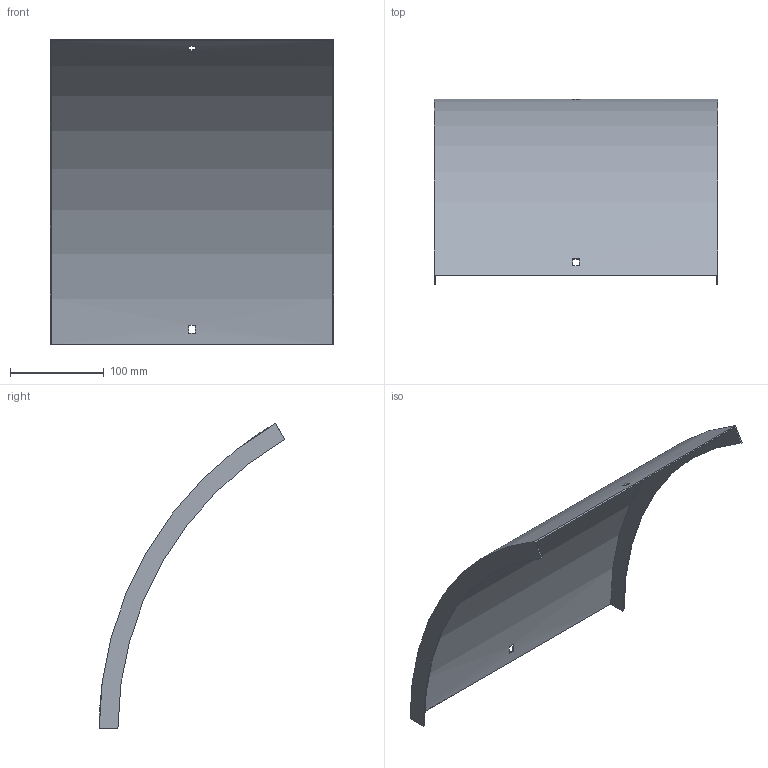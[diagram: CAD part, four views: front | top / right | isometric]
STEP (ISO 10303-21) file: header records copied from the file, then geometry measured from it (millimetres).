
FILE_DESCRIPTION (( 'STEP AP214' ), '1' );
FILE_NAME ('B2_41N3C300.step', '2025-02-21T10:41:06', ( '' ), ( '' ), 'SwSTEP 2.0', 'SolidWorks 2023', '' );
FILE_SCHEMA (( 'AUTOMOTIVE_DESIGN' ));
Length unit declared in the file: millimetre
Products named in the file (1): B2_41N3C300
Bounding box: 303 x 198.25 x 326.06 mm (x, y, z)
Volume: 199920.2 mm3; surface area: 268795.7 mm2
Topology: 1 solids, 1 shells, 18 faces, 48 edges, 32 vertices
Faces by surface type: plane 14, cylinder 4
Entity records: 599 total; most frequent: DIRECTION 102, CARTESIAN_POINT 99, ORIENTED_EDGE 96, EDGE_CURVE 48, AXIS2_PLACEMENT_3D 35, VECTOR 32, VERTEX_POINT 32, LINE 32
